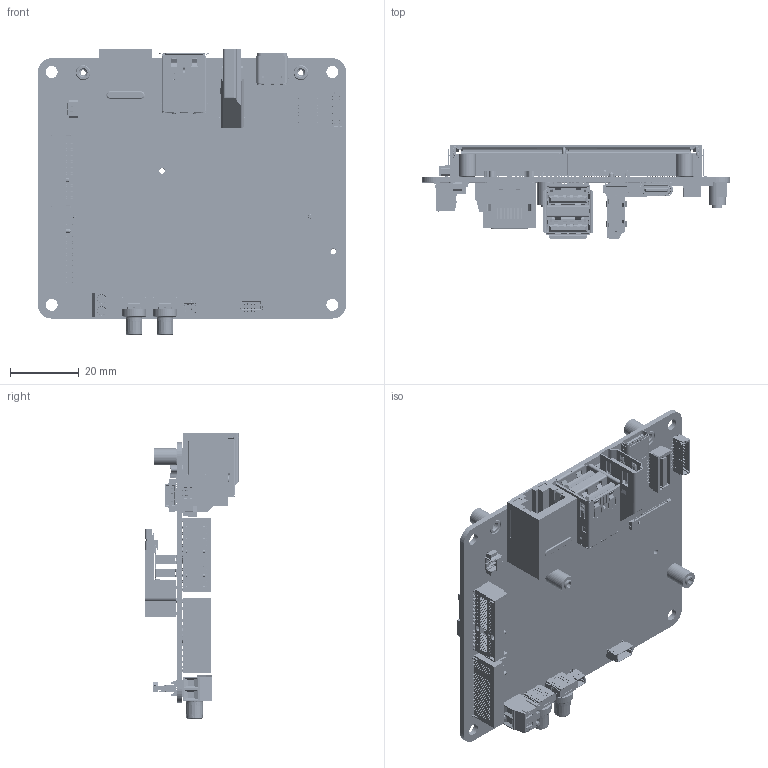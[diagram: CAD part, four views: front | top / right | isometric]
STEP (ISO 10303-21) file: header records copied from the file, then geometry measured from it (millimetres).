
FILE_DESCRIPTION((''),'2;1');
FILE_NAME('D133S_MAIN_BOARD_ASSY_ASM','2025-07-24T09:26:18',('A004125'),(''),'CREO PARAMETRIC BY PTC INC, 2016390','CREO PARAMETRIC BY PTC INC, 2016390','');
FILE_SCHEMA(('CONFIG_CONTROL_DESIGN','SHAPE_APPEARANCE_LAYERS_GROUPS'));
Products named in the file (32): D133S_MAIN_BOARD_PCB; D133S_MAIN_BD_TOP_LIMIT; D133S_MAIN_BD_BTM_LIMIT; D133S_MAIN_PCB_ASM; ASAA826-EASB0-XH_1; 104AAAAAAADJ; 062AASAA8AM4_W_NUT_ASSY_ASM; SODIMM_062AASAA8AM4_ASSY_ASM; 066A50271AR7; S-50554-022XX-XXX; D133S_MAIN_BD_TOP_ASSY_ASM; 061AJFM38BBL; 061ACU3B-BBD; 061AHM-FVBB6; 061A57988BBH; 062AMB332AM7; 0402LS67AAF6_F7; 062A51748ANG; 104AAAAAAADA; M-2_8-5_SLOT-E_2230_LIMIT; 062A51748ANG_E_2230_ASSY_ASM; 062A2E0BCANH; 062A2E0BCANH_2280_LIMIT_AREA; 062A2E0BCANH_2280_ASSY_ASM; 066A50228ASC; 066A50271APC; S-50228-010XX-001; 066AUSL00AP7; 066A50228AVH; 066ABM20BAKD; D133S_MAIN_BD_BTM_ASSY_ASM; D133S_MAIN_BOARD_ASSY_ASM
Assembly tree (35 placements, depth 5):
  D133S_MAIN_BOARD_ASSY_ASM
    D133S_MAIN_PCB_ASM
      D133S_MAIN_BOARD_PCB
      D133S_MAIN_BD_TOP_LIMIT
      D133S_MAIN_BD_BTM_LIMIT
    D133S_MAIN_BD_TOP_ASSY_ASM
      SODIMM_062AASAA8AM4_ASSY_ASM
        062AASAA8AM4_W_NUT_ASSY_ASM
          ASAA826-EASB0-XH_1
          104AAAAAAADJ  x2
      066A50271AR7
      S-50554-022XX-XXX  x2
    D133S_MAIN_BD_BTM_ASSY_ASM
      061AJFM38BBL
      061ACU3B-BBD
      061AHM-FVBB6
      061A57988BBH
      062AMB332AM7
      0402LS67AAF6_F7  x2
      062A51748ANG_E_2230_ASSY_ASM
        062A51748ANG
        104AAAAAAADA
        M-2_8-5_SLOT-E_2230_LIMIT
      062A2E0BCANH_2280_ASSY_ASM
        062A2E0BCANH
        062A2E0BCANH_2280_LIMIT_AREA
        104AAAAAAADA
      066A50228ASC
      066A50271APC
      S-50228-010XX-001
      066AUSL00AP7
      066A50228AVH
      066ABM20BAKD
Bounding box: 90 x 27.34 x 83.41 mm (x, y, z)
Volume: 21953.7 mm3; surface area: 37589.6 mm2
Topology: 27 solids, 44 shells, 18475 faces, 55020 edges, 36229 vertices
Faces by surface type: plane 13686, cylinder 4422, bspline 180, cone 77, torus 76, extrusion 18, sphere 16
Entity records: 586820 total; most frequent: CARTESIAN_POINT 116409, ORIENTED_EDGE 95053, DIRECTION 84997, EDGE_CURVE 47555, VECTOR 38209, LINE 38191, VERTEX_POINT 31320, AXIS2_PLACEMENT_3D 23394
